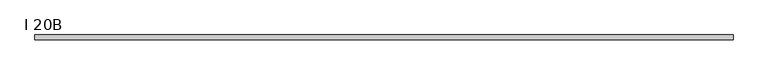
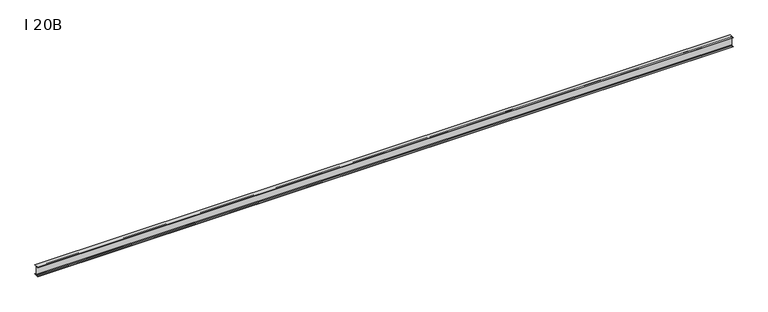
"""IFC4 building model written with IfcOpenShell, lengths in millimetres: beam geometry, Двутавровая балка с параллельными гранями полок типа Б (ТУ 14-2-24-72) Балки : I 20B."""

from ifc_helpers import new_model, si_unit, point, frame, frame_2d, origin, place, context, project, spatial, polyline, circle_curve, trimmed, segment, composite_curve, outline, extrude, source, transform, mapped, element, save


def i_20b_96209b2f(model_context):
    return source(origin(), model_context, "Body", "SweptSolid", [
        extrude(outline(composite_curve([segment(polyline([(49.5, -91.4), (49.5, -97.0), (-49.5, -97.0), (-49.5, -91.4), (-13.25, -91.4)]), True, "CONTINUOUS"), segment(trimmed(circle_curve(frame_2d((-13.25, -80.4)), 11.0), [point((-13.25, -91.4))], [point((-2.25, -80.4))], True, "CARTESIAN"), True, "CONTINUOUS"), segment(polyline([(-2.25, -80.4), (-2.25, 80.4)]), True, "CONTINUOUS"), segment(trimmed(circle_curve(frame_2d((-13.25, 80.4)), 11.0), [point((-2.25, 80.4))], [point((-13.25, 91.4))], True, "CARTESIAN"), True, "CONTINUOUS"), segment(polyline([(-13.25, 91.4), (-49.5, 91.4), (-49.5, 97.0), (49.5, 97.0), (49.5, 91.4), (13.25, 91.4)]), True, "CONTINUOUS"), segment(trimmed(circle_curve(frame_2d((13.25, 80.4)), 11.0), [point((13.25, 91.4))], [point((2.25, 80.4))], True, "CARTESIAN"), True, "CONTINUOUS"), segment(polyline([(2.25, 80.4), (2.25, -80.4)]), True, "CONTINUOUS"), segment(trimmed(circle_curve(frame_2d((13.25, -80.4)), 11.0), [point((2.25, -80.4))], [point((13.25, -91.4))], True, "CARTESIAN"), True, "CONTINUOUS"), segment(polyline([(13.25, -91.4), (49.5, -91.4)]), True, "CONTINUOUS")], self_intersect=False)), frame((-7000.0, 0.0, 0.0), z_axis=(1.0, 0.0, 0.0), x_axis=(0.0, 1.0, 0.0)), (0.0, 0.0, 1.0), 14000.0),
    ])


if __name__ == "__main__":
    model = new_model("IFC4")
    model_context = context("Model", 3, world=origin())
    ifc_project = project(units=[si_unit("LENGTHUNIT", "METRE", prefix="MILLI")], contexts=[model_context])
    site = spatial("IfcSite", under=ifc_project)
    building = spatial("IfcBuilding", under=site)
    placement = place(None, origin())
    i_20b_shape = i_20b_96209b2f(model_context)
    element("IfcBeam", 1, ObjectType="Двутавровая балка с параллельными гранями полок типа Б (ТУ 14-2-24-72) Балки : I 20B", at=placement, inside=building, context=model_context, shape_type="MappedRepresentation", body=[
        mapped(i_20b_shape, transform((0.0, 0.0, 0.0), x_axis=(1.0, 0.0, 0.0), y_axis=(0.0, 1.0, 0.0), z_axis=(0.0, 0.0, 1.0))),
    ])
    save(model, "model.ifc")
